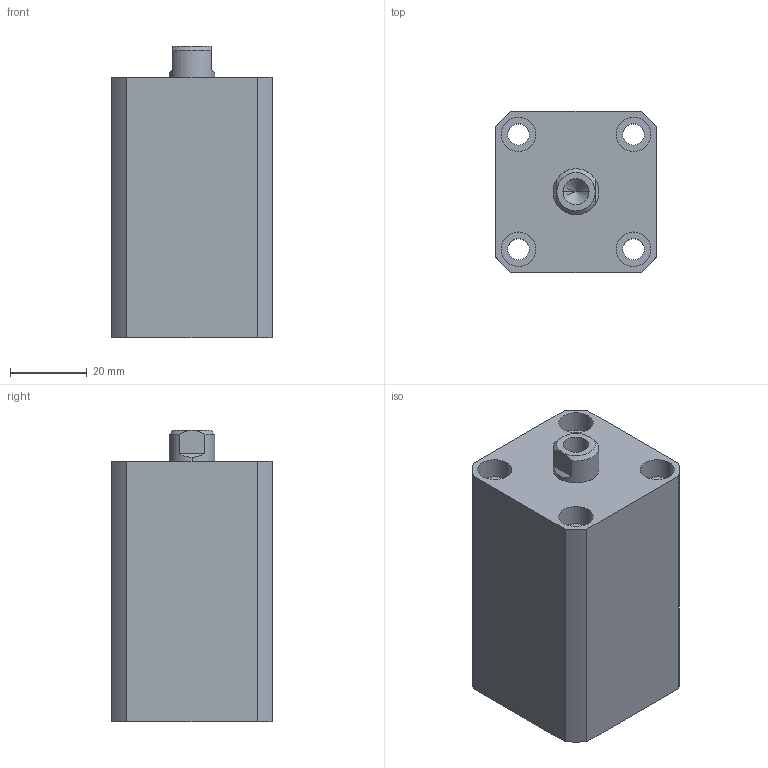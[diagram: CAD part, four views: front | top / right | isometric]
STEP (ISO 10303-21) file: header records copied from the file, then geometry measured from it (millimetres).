
FILE_DESCRIPTION (( 'STEP AP203' ), '1' );
FILE_NAME ('HTB-SDMB20-25N.STEP', '2019-10-08T11:55:03', ( '微软用户' ), ( '微软中国' ), 'SwSTEP 2.0', 'SolidWorks 2012', '' );
FILE_SCHEMA (( 'CONFIG_CONTROL_DESIGN' ));
Length unit declared in the file: millimetre
Products named in the file (3): HTB-SDMB20-25N; HTB-SDMB20-25掛极; HTB-SDMB20-25N活塞杆
Assembly tree (2 placements, depth 2):
  HTB-SDMB20-25N
    HTB-SDMB20-25掛极
    HTB-SDMB20-25N活塞杆
Bounding box: 42 x 42 x 76 mm (x, y, z)
Volume: 104483.7 mm3; surface area: 27004.5 mm2
Topology: 2 solids, 2 shells, 136 faces, 326 edges, 213 vertices
Faces by surface type: plane 64, cylinder 46, bspline 16, torus 6, cone 4
Entity records: 5023 total; most frequent: CARTESIAN_POINT 1570, ORIENTED_EDGE 648, DIRECTION 640, EDGE_CURVE 324, AXIS2_PLACEMENT_3D 231, VERTEX_POINT 213, VECTOR 178, LINE 178
